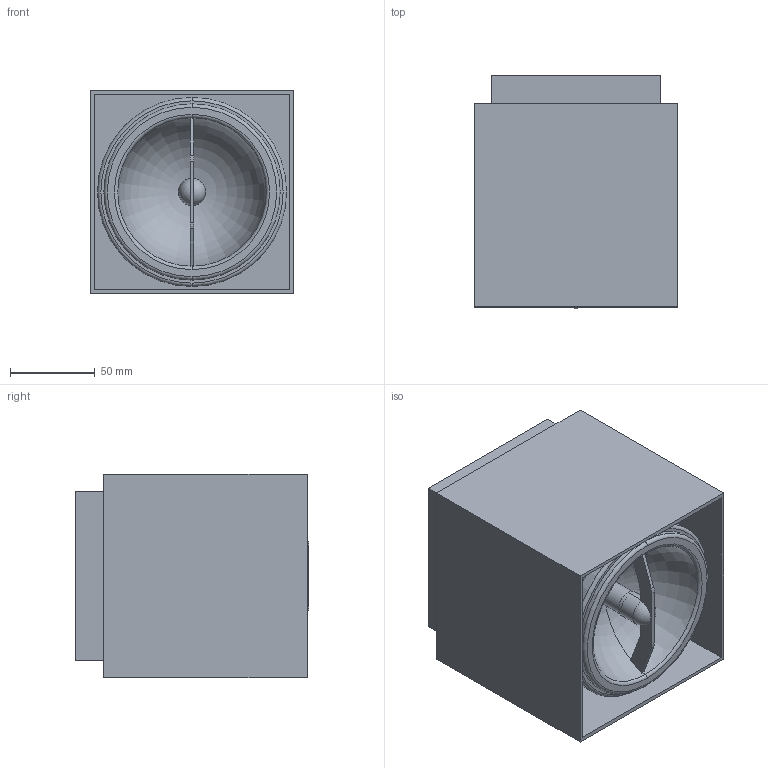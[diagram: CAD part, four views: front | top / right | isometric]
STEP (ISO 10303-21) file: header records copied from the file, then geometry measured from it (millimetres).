
FILE_DESCRIPTION (( 'STEP AP214' ), '1' );
FILE_NAME ('3D_CUBO_CEILING_G53.STEP', '2018-03-16T10:13:28', ( 'Utente' ), ( '' ), 'SwSTEP 2.0', 'SolidWorks 2016', '' );
FILE_SCHEMA (( 'AUTOMOTIVE_DESIGN' ));
Length unit declared in the file: millimetre
Products named in the file (4): G9MARTIMARTIMM-1^3D_CUBO_CEILING_G53; AR111MARTIMARTIMM-1^3D_CUBO_CEILING_G53; Group3^3D_CUBO_CEILING_G53; 3D_CUBO_CEILING_G53
Assembly tree (3 placements, depth 2):
  3D_CUBO_CEILING_G53
    Group3^3D_CUBO_CEILING_G53
    AR111MARTIMARTIMM-1^3D_CUBO_CEILING_G53
    G9MARTIMARTIMM-1^3D_CUBO_CEILING_G53
Bounding box: 120 x 137.86 x 120 mm (x, y, z)
Volume: 862599 mm3; surface area: 174218.5 mm2
Topology: 3 solids, 3 shells, 133 faces, 341 edges, 218 vertices
Faces by surface type: plane 66, cylinder 39, torus 26, sphere 2
Entity records: 4376 total; most frequent: CARTESIAN_POINT 964, DIRECTION 698, ORIENTED_EDGE 682, EDGE_CURVE 341, AXIS2_PLACEMENT_3D 260, VERTEX_POINT 218, LINE 178, VECTOR 178
